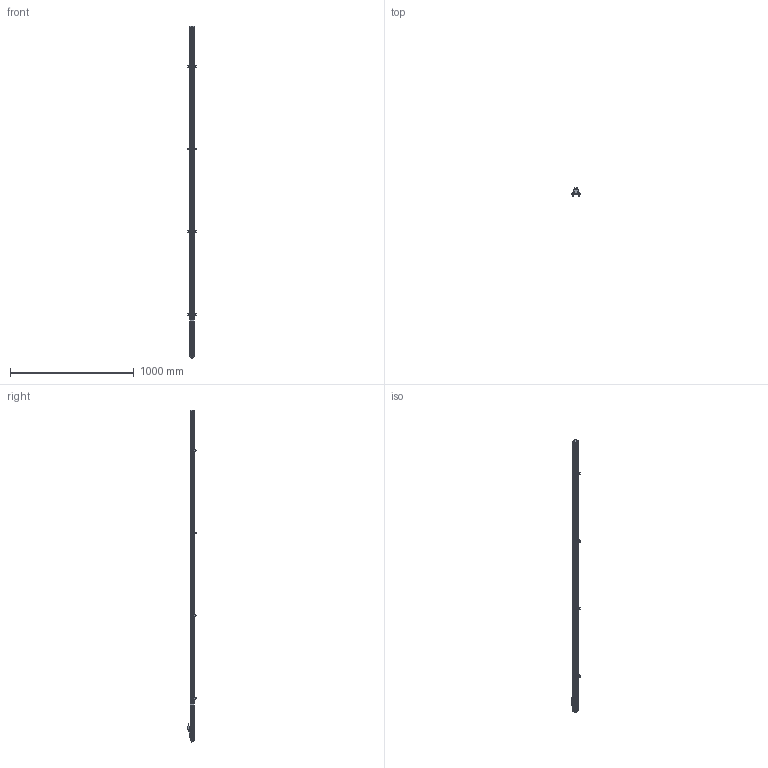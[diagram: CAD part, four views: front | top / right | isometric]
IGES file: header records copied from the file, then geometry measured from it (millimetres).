
Start section: SolidWorks IGES file using analytic representation for surfaces
Global section: file name: E:\Signorello\TLH\TLH Bearbeitet\TLH_2500.IGS; native system: SolidWorks 2009; preprocessor: SolidWorks 2009; author: Signorello_A; date: 100506.150639; units: millimetre
Bounding box: 65 x 70.3 x 2680 mm (x, y, z)
Surface area: 646240.7 mm2 (no closed solid volume)
Topology: 0 solids, 0 shells, 1499 faces, 16996 edges, 16962 vertices
Faces by surface type: bspline 868, revolution 631
